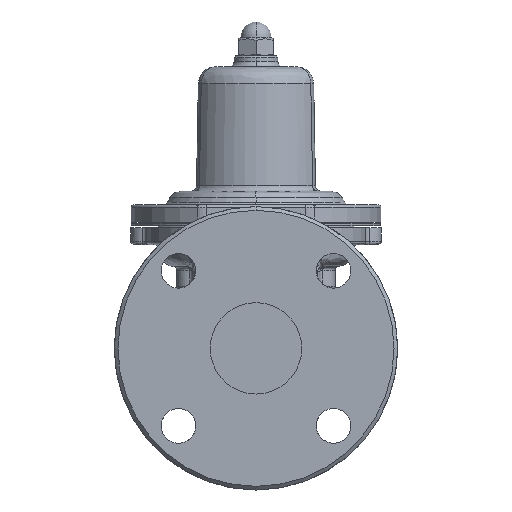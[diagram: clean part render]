
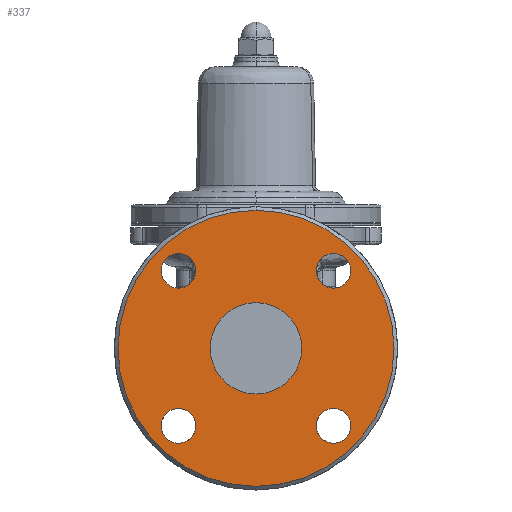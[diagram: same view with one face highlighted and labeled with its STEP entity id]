
A CAD part, left-side view. The second image highlights one B-rep face of the part: STEP entity #337.
In plain terms, the highlighted planar face has unit normal (-1, 0, 0).
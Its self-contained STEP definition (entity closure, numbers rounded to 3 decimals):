
#337=ADVANCED_FACE('',(#1812,#1813,#1814,#1815,#1816,#1817),#1811,.T.);
#1811=PLANE('',#6625);
#1812=FACE_OUTER_BOUND('',#6626,.T.);
#1813=FACE_BOUND('',#6627,.T.);
#1814=FACE_BOUND('',#6628,.T.);
#1815=FACE_BOUND('',#6629,.T.);
#1816=FACE_BOUND('',#6630,.T.);
#1817=FACE_BOUND('',#6631,.T.);
#6622=CARTESIAN_POINT('',(-120.,-140.77,-161.));
#6623=DIRECTION('',(-1.,0.,0.));
#6624=DIRECTION('',(0.,0.,1.));
#6625=AXIS2_PLACEMENT_3D('',#6622,#6623,#6624);
#6626=EDGE_LOOP('',(#14321,#14322));
#6627=EDGE_LOOP('',(#14323,#14324));
#6628=EDGE_LOOP('',(#14325,#14326));
#6629=EDGE_LOOP('',(#14327,#14328));
#6630=EDGE_LOOP('',(#14329,#14330));
#6631=EDGE_LOOP('',(#14331,#14332));
#14321=ORIENTED_EDGE('',*,*,#16181,.T.);
#14322=ORIENTED_EDGE('',*,*,#16182,.T.);
#14323=ORIENTED_EDGE('',*,*,#16183,.T.);
#14324=ORIENTED_EDGE('',*,*,#16184,.T.);
#14325=ORIENTED_EDGE('',*,*,#16185,.T.);
#14326=ORIENTED_EDGE('',*,*,#16186,.T.);
#14327=ORIENTED_EDGE('',*,*,#16187,.T.);
#14328=ORIENTED_EDGE('',*,*,#16188,.T.);
#14329=ORIENTED_EDGE('',*,*,#16189,.T.);
#14330=ORIENTED_EDGE('',*,*,#16190,.T.);
#14331=ORIENTED_EDGE('',*,*,#16191,.F.);
#14332=ORIENTED_EDGE('',*,*,#16192,.F.);
#16181=EDGE_CURVE('',#18696,#18697,#18698,.T.);
#16182=EDGE_CURVE('',#18697,#18696,#18704,.T.);
#16183=EDGE_CURVE('',#18710,#18711,#18712,.T.);
#16184=EDGE_CURVE('',#18711,#18710,#18718,.T.);
#16185=EDGE_CURVE('',#18724,#18725,#18726,.T.);
#16186=EDGE_CURVE('',#18725,#18724,#18732,.T.);
#16187=EDGE_CURVE('',#18738,#18739,#18740,.T.);
#16188=EDGE_CURVE('',#18739,#18738,#18746,.T.);
#16189=EDGE_CURVE('',#18752,#18753,#18754,.T.);
#16190=EDGE_CURVE('',#18753,#18752,#18760,.T.);
#16191=EDGE_CURVE('',#18766,#18767,#18768,.T.);
#16192=EDGE_CURVE('',#18767,#18766,#18774,.T.);
#18696=VERTEX_POINT('',#25493);
#18697=VERTEX_POINT('',#25494);
#18698=CIRCLE('',#25498,75.5);
#18704=CIRCLE('',#25502,75.5);
#18710=VERTEX_POINT('',#25503);
#18711=VERTEX_POINT('',#25504);
#18712=CIRCLE('',#25508,9.5);
#18718=CIRCLE('',#25512,9.5);
#18724=VERTEX_POINT('',#25513);
#18725=VERTEX_POINT('',#25514);
#18726=CIRCLE('',#25518,9.5);
#18732=CIRCLE('',#25522,9.5);
#18738=VERTEX_POINT('',#25523);
#18739=VERTEX_POINT('',#25524);
#18740=CIRCLE('',#25528,9.5);
#18746=CIRCLE('',#25532,9.5);
#18752=VERTEX_POINT('',#25533);
#18753=VERTEX_POINT('',#25534);
#18754=CIRCLE('',#25538,9.5);
#18760=CIRCLE('',#25542,9.5);
#18766=VERTEX_POINT('',#25543);
#18767=VERTEX_POINT('',#25544);
#18768=CIRCLE('',#25548,25.);
#18774=CIRCLE('',#25552,25.);
#25493=CARTESIAN_POINT('',(-120.,0.,75.5));
#25494=CARTESIAN_POINT('',(-120.,0.,-75.5));
#25495=CARTESIAN_POINT('',(-120.,0.,0.));
#25496=DIRECTION('',(-1.,0.,0.));
#25497=DIRECTION('',(0.,0.,1.));
#25498=AXIS2_PLACEMENT_3D('',#25495,#25496,#25497);
#25499=CARTESIAN_POINT('',(-120.,0.,0.));
#25500=DIRECTION('',(-1.,0.,0.));
#25501=DIRECTION('',(0.,0.,1.));
#25502=AXIS2_PLACEMENT_3D('',#25499,#25500,#25501);
#25503=CARTESIAN_POINT('',(-120.,-42.426,51.926));
#25504=CARTESIAN_POINT('',(-120.,-42.426,32.926));
#25505=CARTESIAN_POINT('',(-120.,-42.426,42.426));
#25506=DIRECTION('',(1.,0.,0.));
#25507=DIRECTION('',(0.,0.,1.));
#25508=AXIS2_PLACEMENT_3D('',#25505,#25506,#25507);
#25509=CARTESIAN_POINT('',(-120.,-42.426,42.426));
#25510=DIRECTION('',(1.,0.,0.));
#25511=DIRECTION('',(0.,0.,1.));
#25512=AXIS2_PLACEMENT_3D('',#25509,#25510,#25511);
#25513=CARTESIAN_POINT('',(-120.,-42.426,-32.926));
#25514=CARTESIAN_POINT('',(-120.,-42.426,-51.926));
#25515=CARTESIAN_POINT('',(-120.,-42.426,-42.426));
#25516=DIRECTION('',(1.,0.,0.));
#25517=DIRECTION('',(0.,0.,1.));
#25518=AXIS2_PLACEMENT_3D('',#25515,#25516,#25517);
#25519=CARTESIAN_POINT('',(-120.,-42.426,-42.426));
#25520=DIRECTION('',(1.,0.,0.));
#25521=DIRECTION('',(0.,0.,1.));
#25522=AXIS2_PLACEMENT_3D('',#25519,#25520,#25521);
#25523=CARTESIAN_POINT('',(-120.,42.426,-32.926));
#25524=CARTESIAN_POINT('',(-120.,42.426,-51.926));
#25525=CARTESIAN_POINT('',(-120.,42.426,-42.426));
#25526=DIRECTION('',(1.,0.,0.));
#25527=DIRECTION('',(0.,0.,1.));
#25528=AXIS2_PLACEMENT_3D('',#25525,#25526,#25527);
#25529=CARTESIAN_POINT('',(-120.,42.426,-42.426));
#25530=DIRECTION('',(1.,0.,0.));
#25531=DIRECTION('',(0.,0.,1.));
#25532=AXIS2_PLACEMENT_3D('',#25529,#25530,#25531);
#25533=CARTESIAN_POINT('',(-120.,42.426,51.926));
#25534=CARTESIAN_POINT('',(-120.,42.426,32.926));
#25535=CARTESIAN_POINT('',(-120.,42.426,42.426));
#25536=DIRECTION('',(1.,0.,0.));
#25537=DIRECTION('',(0.,0.,1.));
#25538=AXIS2_PLACEMENT_3D('',#25535,#25536,#25537);
#25539=CARTESIAN_POINT('',(-120.,42.426,42.426));
#25540=DIRECTION('',(1.,0.,0.));
#25541=DIRECTION('',(0.,0.,1.));
#25542=AXIS2_PLACEMENT_3D('',#25539,#25540,#25541);
#25543=CARTESIAN_POINT('',(-120.,0.,25.));
#25544=CARTESIAN_POINT('',(-120.,0.,-25.));
#25545=CARTESIAN_POINT('',(-120.,0.,0.));
#25546=DIRECTION('',(-1.,0.,0.));
#25547=DIRECTION('',(0.,0.,-1.));
#25548=AXIS2_PLACEMENT_3D('',#25545,#25546,#25547);
#25549=CARTESIAN_POINT('',(-120.,0.,0.));
#25550=DIRECTION('',(-1.,0.,0.));
#25551=DIRECTION('',(0.,0.,-1.));
#25552=AXIS2_PLACEMENT_3D('',#25549,#25550,#25551);
